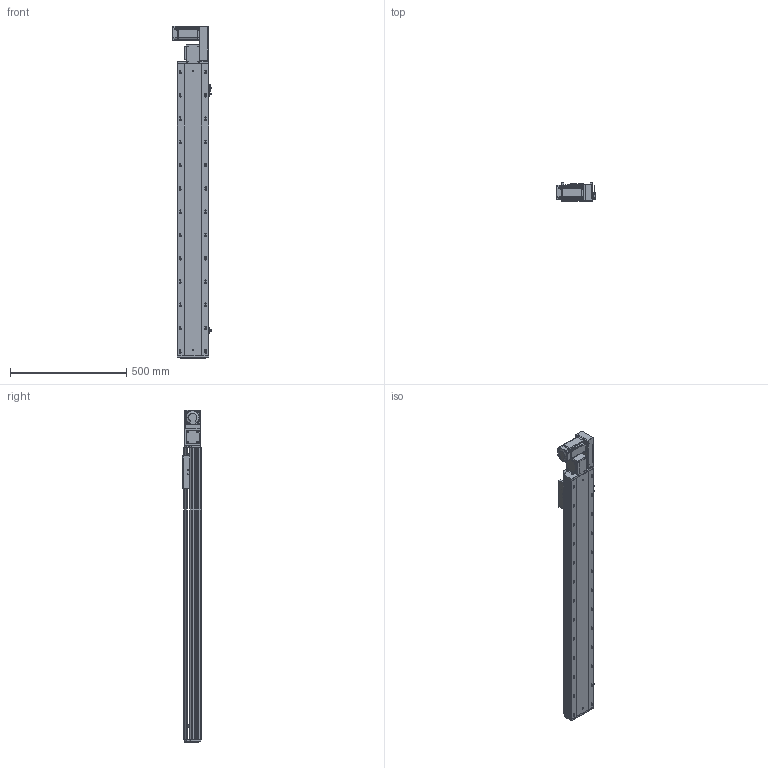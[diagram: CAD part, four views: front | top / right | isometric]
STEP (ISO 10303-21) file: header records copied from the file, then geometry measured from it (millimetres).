
FILE_DESCRIPTION (( 'STEP AP203' ), '1' );
FILE_NAME ('RY140-T-300-RK.SLDASM_1000.step', '2021-03-01T06:45:49', ( '盈信电脑' ), ( '东莞市道滘镇水果街19号' ), 'SwSTEP 2.0', 'SolidWorks 2012', '' );
FILE_SCHEMA (( 'CONFIG_CONTROL_DESIGN' ));
Products named in the file (17): RY140-T-300-RK.SLDASM_1000; 15; RY120-T主同步轮轴承压盖; RY140-T萇儂假蚾啣; RY120-T蹟翐M4; RY140-T翋肮祭謫盓傅釱; RY140-T翋肮謫裔啣; 滅袉蝶18-10; RY140-T萇儂欶; RY120-T肮祭湍揤踡輸2; RY120外置感应片(140共用）; RY120-T肮祭湍揤踡輸1; RY140綴裔啣; RY140肮祭謫臏賑輸; RY140-T-300-DR倰第奻裔啣_1000; 覜茼ん672; RY140-T-300-DR倰第菁釱_1000
Assembly tree (22 placements, depth 2):
  RY140-T-300-RK.SLDASM_1000
    RY140-T-300-DR倰第菁釱_1000
    RY140肮祭謫臏賑輸
    RY140-T-300-DR倰第奻裔啣_1000
    RY140綴裔啣
    覜茼ん672  x3
    RY120外置感应片(140共用）
    RY120-T肮祭湍揤踡輸2
    RY120-T肮祭湍揤踡輸1
    RY140-T翋肮祭謫盓傅釱
    滅袉蝶18-10  x2
    RY140-T翋肮謫裔啣
    RY140-T萇儂欶
    RY140-T萇儂假蚾啣
    RY120-T蹟翐M4  x4
    15
    RY120-T主同步轮轴承压盖
Bounding box: 170.7 x 78 x 1426.5 mm (x, y, z)
Volume: 3988029.9 mm3; surface area: 1525548.4 mm2
Topology: 22 solids, 22 shells, 2771 faces, 7669 edges, 4926 vertices
Faces by surface type: plane 1385, cylinder 1064, cone 222, bspline 100
Entity records: 88594 total; most frequent: CARTESIAN_POINT 21865, ORIENTED_EDGE 13818, DIRECTION 13025, EDGE_CURVE 6909, VERTEX_POINT 4525, AXIS2_PLACEMENT_3D 4350, VECTOR 4325, LINE 4325
